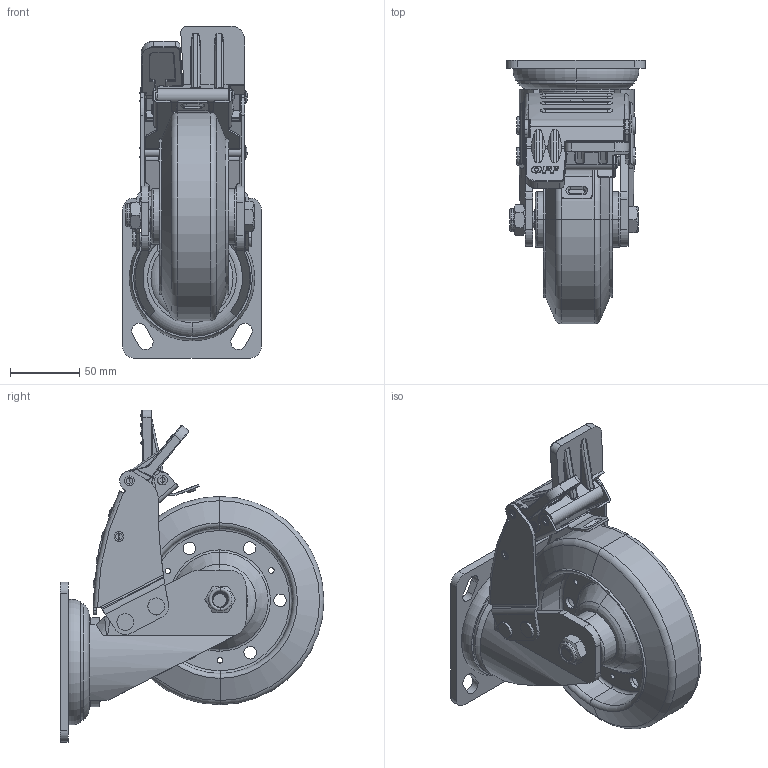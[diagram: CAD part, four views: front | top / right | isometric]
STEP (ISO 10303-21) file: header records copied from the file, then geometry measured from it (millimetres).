
FILE_DESCRIPTION (( 'STEP AP203' ), '1' );
FILE_NAME ('重型6寸AB胶刹.STEP', '2024-02-26T01:24:01', ( '微软用户' ), ( '微软中国' ), 'SwSTEP 2.0', 'SolidWorks 2008', '' );
FILE_SCHEMA (( 'CONFIG_CONTROL_DESIGN' ));
Length unit declared in the file: millimetre
Products named in the file (13): M7 重型ON塑胶刹车手柄B_默认; ф8×14平头钉_默认; 6寸橡胶轮_默认; M7重型6寸连接件_默认; 6｡ﾁ79ﾎｲｿﾗｶ､_ﾄｬﾈﾏ; 笭倰6渡AB蝶价; M7  6寸刹车臂(55)_默认; M7 重型OFF塑胶解刹手柄B_默认; 12｡ﾁ85ﾂﾝｸﾋ_ﾄｬﾈﾏ; M12螺母_默认; 6寸胶，碟刹车锰片_默认; 5｡ﾁ60ﾎｲｿﾗｶ､_ﾄｬﾈﾏ; 重型万向底板_默认
Assembly tree (17 placements, depth 2):
  笭倰6渡AB蝶价
    M7 重型OFF塑胶解刹手柄B_默认
    ф8×14平头钉_默认  x4
    6｡ﾁ79ﾎｲｿﾗｶ､_ﾄｬﾈﾏ  x2
    6寸橡胶轮_默认
    12｡ﾁ85ﾂﾝｸﾋ_ﾄｬﾈﾏ
    M7  6寸刹车臂(55)_默认
    5｡ﾁ60ﾎｲｿﾗｶ､_ﾄｬﾈﾏ  x2
    重型万向底板_默认
    M7重型6寸连接件_默认
    M12螺母_默认
    6寸胶，碟刹车锰片_默认
    M7 重型ON塑胶刹车手柄B_默认
Bounding box: 100 x 189.9 x 239.07 mm (x, y, z)
Volume: 846106.1 mm3; surface area: 222648.5 mm2
Topology: 18 solids, 18 shells, 1239 faces, 3136 edges, 1983 vertices
Faces by surface type: cylinder 503, plane 428, torus 123, bspline 120, cone 36, sphere 29
Entity records: 47623 total; most frequent: CARTESIAN_POINT 18150, ORIENTED_EDGE 5996, DIRECTION 5675, EDGE_CURVE 2998, AXIS2_PLACEMENT_3D 2085, VERTEX_POINT 1902, VECTOR 1505, LINE 1505
